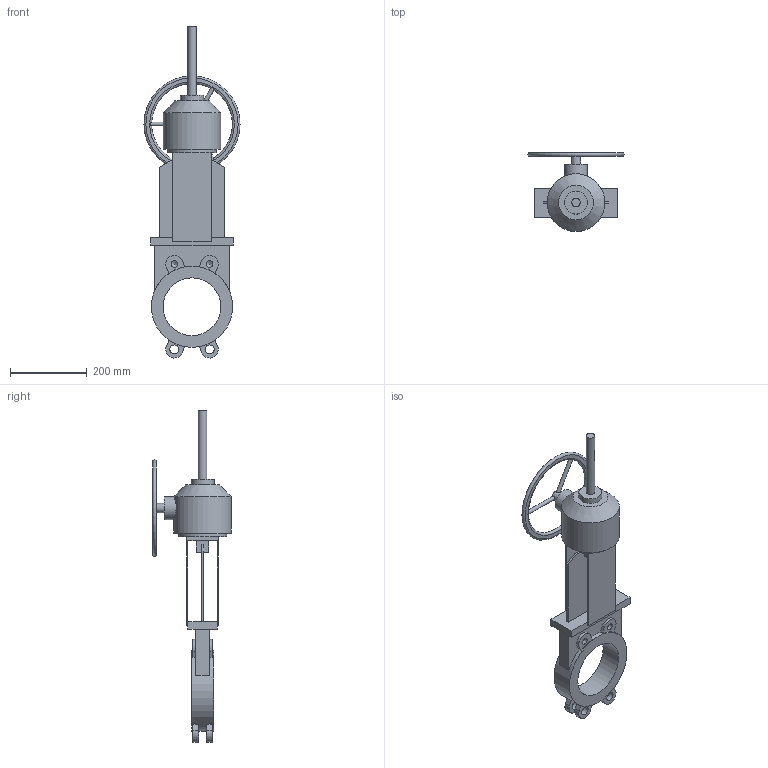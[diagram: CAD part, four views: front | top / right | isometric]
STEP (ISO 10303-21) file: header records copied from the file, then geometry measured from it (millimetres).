
FILE_DESCRIPTION(('STEP AP203'), '1');
FILE_NAME('Çàäâèæêà øèáåðíàÿ K51GV DN150 ðåäóêòîð+âûäâèæíîé øïèíäåëü', '', ('UNSPECIFIED'), ('UNSPECIFIED'), 'ASCON STEP Converter 1.6', 'ASCON Math Kernel', '');
FILE_SCHEMA(('CONFIG_CONTROL_DESIGN'));
Length unit declared in the file: millimetre
Bounding box: 250 x 205 x 863.34 mm (x, y, z)
Volume: 4838708.2 mm3; surface area: 504360.4 mm2
Topology: 1 solids, 1 shells, 115 faces, 299 edges, 189 vertices
Faces by surface type: plane 79, cylinder 27, cone 5, torus 4
Full cylindrical faces by diameter (mm): 10 x3, 17.294 x4, 22 x1, 23 x4, 24 x1, 60 x2, 125 x1, 150 x2, 211 x1
Entity records: 5672 total; most frequent: CARTESIAN_POINT 1946, DIRECTION 576, ORIENTED_EDGE 538, EDGE_CURVE 269, AXIS2_PLACEMENT_3D 204, VERTEX_POINT 185, LINE 168, VECTOR 168
